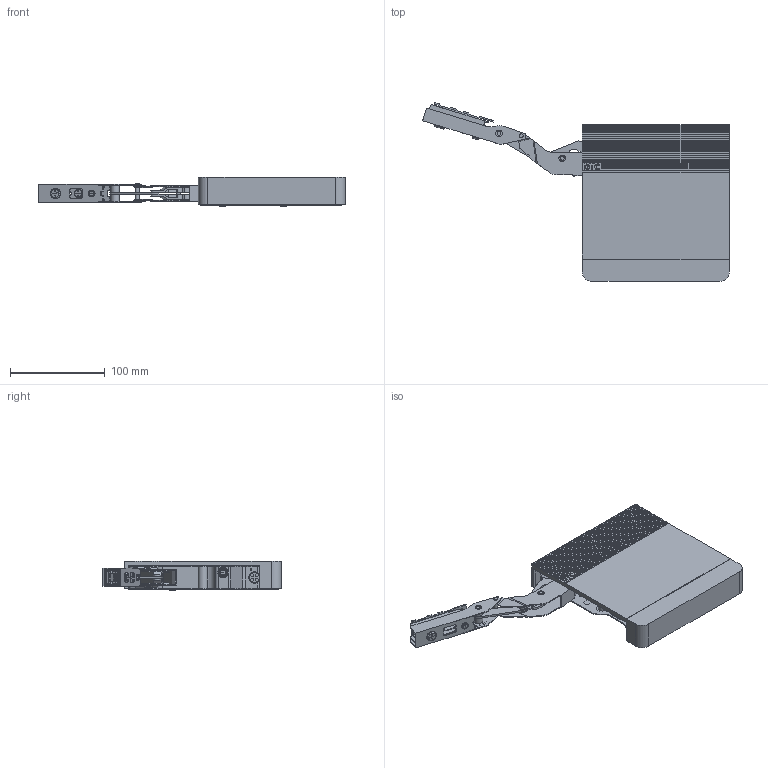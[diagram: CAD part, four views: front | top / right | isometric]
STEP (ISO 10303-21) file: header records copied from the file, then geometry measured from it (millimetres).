
FILE_DESCRIPTION(/* description */ (''),/* implementation_level */ '2;1');
FILE_NAME(/* name */ 'D:\$Workingspace\Designs\Katalog\Cadsoft\Akcesoria\PD-LIFT\PD-LIFT_left.stp',/* time_stamp */ '2021-01-15T13:10:16+01:00',/* author */ ('tomaszw'),/* organization */ (''),/* preprocessor_version */ 'ST-DEVELOPER v18.1',/* originating_system */ 'Autodesk Inventor 2020',/* authorisation */ '');
FILE_SCHEMA (('AUTOMOTIVE_DESIGN { 1 0 10303 214 3 1 1 }'));
Length unit declared in the file: millimetre
Products named in the file (17): PD-LIFT; main body; arm 2; arm 3; arm 4; arm 5; pivot 1; pivot 2; pivot 3; pivot 4; pivot 5; mounting front fixing-bracket; front fixing-bracket; screw 1; screw 2; arm 1; cover-left
Assembly tree (16 placements, depth 2):
  PD-LIFT
    main body
    arm 2
    arm 3
    arm 4
    arm 5
    pivot 1
    pivot 2
    pivot 3
    pivot 4
    pivot 5
    mounting front fixing-bracket
    front fixing-bracket
    screw 1
    screw 2
    arm 1
    cover-left
Bounding box: 323.5 x 188.53 x 31 mm (x, y, z)
Volume: 305100.7 mm3; surface area: 210846.4 mm2
Topology: 18 solids, 18 shells, 1628 faces, 4332 edges, 2870 vertices
Faces by surface type: plane 1158, cylinder 439, bspline 24, torus 6, cone 1
Full cylindrical faces by diameter (mm): 0.5 x2, 1.5 x3, 2 x1, 3 x22, 3.5 x6, 4 x29, 4.5 x4, 5 x24, 5.5 x10, 6 x9, 7 x11, 7.414 x2, 8 x2, 9 x4, 9.5 x6, 11 x1, 12 x1, 13 x8
Entity records: 52901 total; most frequent: CARTESIAN_POINT 9437, ORIENTED_EDGE 8664, DIRECTION 8518, EDGE_CURVE 4332, LINE 3316, VECTOR 3316, VERTEX_POINT 2870, AXIS2_PLACEMENT_3D 2601
